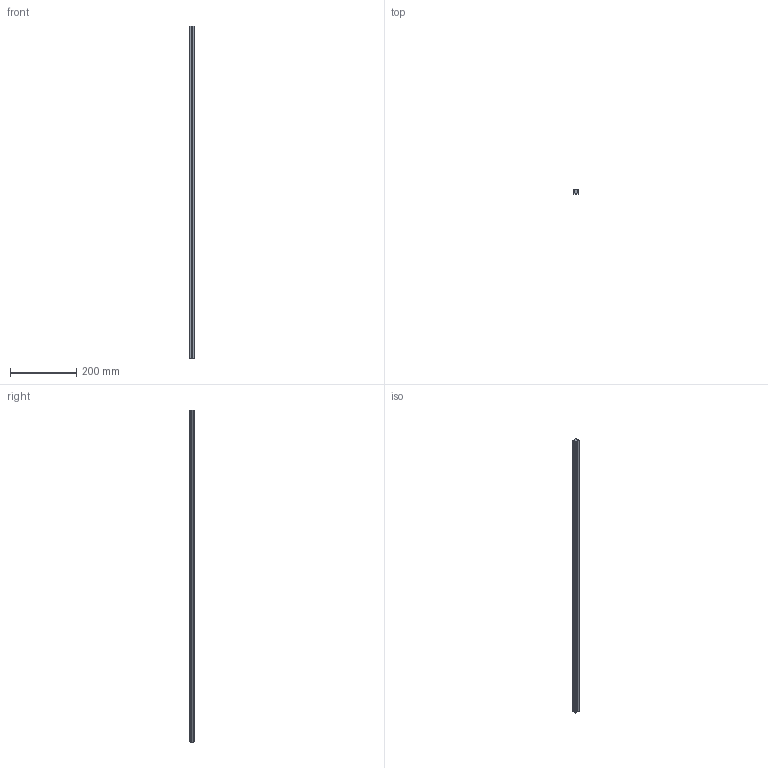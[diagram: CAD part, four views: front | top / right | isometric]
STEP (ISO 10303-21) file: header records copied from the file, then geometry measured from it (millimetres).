
FILE_DESCRIPTION(/* description */ (''),/* implementation_level */ '2;1');
FILE_NAME(/* name */ 'CE15.stp',/* time_stamp */ '2024-01-30T12:39:53+01:00',/* author */ ('daviddillkoetter'),/* organization */ (''),/* preprocessor_version */ 'ST-DEVELOPER v19.2',/* originating_system */ 'Autodesk Inventor 2024',/* authorisation */ '');
FILE_SCHEMA (('AUTOMOTIVE_DESIGN { 1 0 10303 214 3 1 1 }'));
Length unit declared in the file: millimetre
Products named in the file (1): CE15
Bounding box: 15 x 12.5 x 1000 mm (x, y, z)
Volume: 158457.5 mm3; surface area: 60342 mm2
Topology: 1 solids, 1 shells, 221 faces, 562 edges, 343 vertices
Faces by surface type: plane 124, cone 59, cylinder 38
Full cylindrical faces by diameter (mm): 4.5 x17, 7.5 x17
Entity records: 6692 total; most frequent: CARTESIAN_POINT 1311, DIRECTION 1159, ORIENTED_EDGE 1124, EDGE_CURVE 562, AXIS2_PLACEMENT_3D 459, VERTEX_POINT 343, EDGE_LOOP 255, LINE 241
